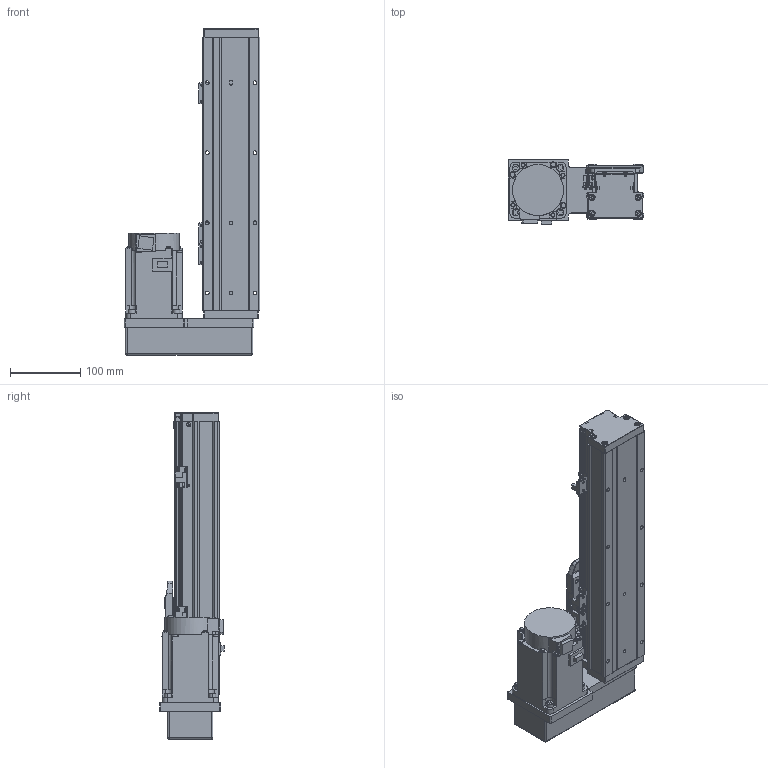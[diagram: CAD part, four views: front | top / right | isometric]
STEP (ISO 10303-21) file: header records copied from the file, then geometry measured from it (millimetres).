
FILE_DESCRIPTION (( 'STEP AP203' ), '1' );
FILE_NAME ('GTH8-200-BL-M75-C4.step', '2023-02-14T02:23:35', ( '微软用户' ), ( '微软中国' ), 'SwSTEP 2.0', 'SolidWorks 2020', '' );
FILE_SCHEMA (( 'CONFIG_CONTROL_DESIGN' ));
Length unit declared in the file: millimetre
Products named in the file (18): hg-kn73j_-s100; GTH80-006; GTH50-024; GTH8-200-BL-M75-C4; GTH80-013; GTH50-023; GBT 70.3-M3℅6; GBT96.1-2002 3×0.8; GTH80-022; BTH-M3X5X6; GTH80-001_200; GBT 70.1-M3℅6; CTHA86-015-3_CTHA86-015-4; GTH80-003; GBT 70.1-M4×16; CTHA86-035; GTH80-004; GTH80-028
Assembly tree (57 placements, depth 2):
  GTH8-200-BL-M75-C4
    GTH80-001_200
    GTH80-003
    GTH80-004
    GTH80-006
    GTH80-013
    GBT 70.3-M3℅6  x4
    GTH80-022
    GBT 70.1-M3℅6  x14
    GBT 70.1-M4×16  x8
    GTH80-028  x2
    GTH50-024  x3
    GTH50-023  x3
    GBT96.1-2002 3×0.8  x6
    BTH-M3X5X6  x8
    CTHA86-015-3_CTHA86-015-4
    CTHA86-035
    hg-kn73j_-s100
Bounding box: 193.5 x 92.3 x 466 mm (x, y, z)
Volume: 3237367.7 mm3; surface area: 371371 mm2
Topology: 59 solids, 59 shells, 2179 faces, 5046 edges, 3088 vertices
Faces by surface type: plane 1153, cylinder 611, cone 243, torus 158, sphere 12, bspline 2
Entity records: 38996 total; most frequent: CARTESIAN_POINT 6551, DIRECTION 6417, ORIENTED_EDGE 5902, EDGE_CURVE 2951, AXIS2_PLACEMENT_3D 2254, LINE 1909, VECTOR 1909, VERTEX_POINT 1863
